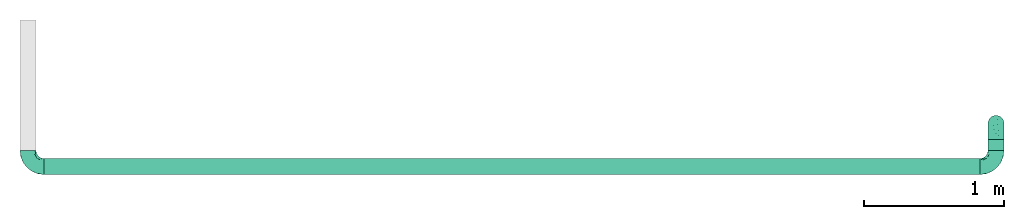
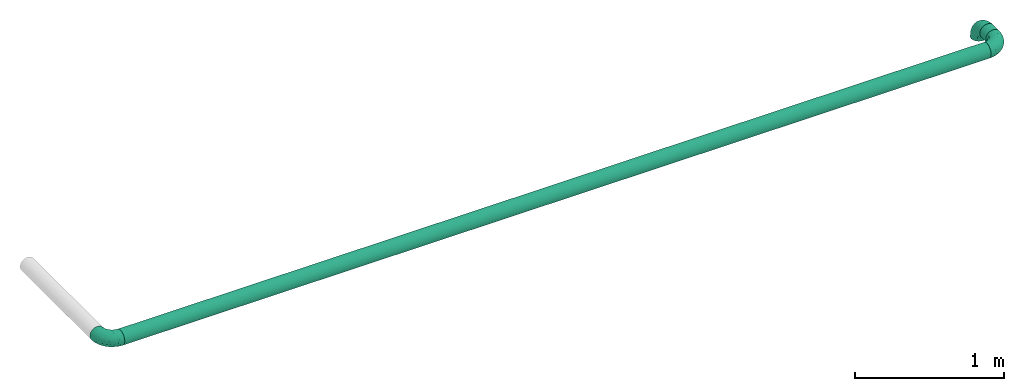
# One storey, part 1 of 2: 3 flow fittings, 2 flow segments.
"""IFC2X3 building model written with IfcOpenShell, lengths in millimetres."""

from ifc_helpers import new_model, entity, si_unit, converted_unit, derived_unit, direction, frame, origin_with_axes, origin_2d_with_axis, place, context, subcontext, project, spatial, hollow_circle, extrude, open_shell, surface_model, source, transform, mapped, type_object, element, save


model = new_model("IFC2X3")

# Units and contexts
model_context = context("Model", 3, precision=0.01, world=frame((0.0, 4.29681676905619e-09, 0.0)), true_north=direction((4.01073788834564e-13, 1.0)))
plan_context = context("Plan", 3, precision=0.01, world=frame((0.0, 4.29681676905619e-09, 0.0)), true_north=direction((4.01073788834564e-13, 1.0)))
body_context = subcontext(model_context, "Body", "Model", "MODEL_VIEW")
ifc_project = project(units=[converted_unit("PLANEANGLEUNIT", "DEGREE", entity("IfcPositiveLengthMeasure", 0.0174532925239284), si_unit("PLANEANGLEUNIT", "RADIAN"), dimensions=[0, 0, 0, 0, 0, 0, 0]), si_unit("AREAUNIT", "SQUARE_METRE"), si_unit("LENGTHUNIT", "METRE", prefix="MILLI"), si_unit("MASSUNIT", "GRAM", prefix="KILO"), si_unit("POWERUNIT", "WATT"), si_unit("PRESSUREUNIT", "PASCAL"), si_unit("FORCEUNIT", "NEWTON", prefix="KILO"), si_unit("ELECTRICVOLTAGEUNIT", "VOLT"), si_unit("ELECTRICCURRENTUNIT", "AMPERE"), si_unit("THERMODYNAMICTEMPERATUREUNIT", "DEGREE_CELSIUS"), si_unit("TIMEUNIT", "SECOND"), si_unit("VOLUMEUNIT", "CUBIC_METRE"), derived_unit("LINEARVELOCITYUNIT", [(si_unit("LENGTHUNIT", "METRE"), 1), (si_unit("TIMEUNIT", "SECOND"), -1)]), derived_unit("VOLUMETRICFLOWRATEUNIT", [(si_unit("VOLUMEUNIT", "CUBIC_METRE"), 1), (si_unit("TIMEUNIT", "SECOND"), -1)]), derived_unit("THERMALTRANSMITTANCEUNIT", [(si_unit("POWERUNIT", "WATT"), 1), (si_unit("THERMODYNAMICTEMPERATUREUNIT", "KELVIN"), -1), (si_unit("AREAUNIT", "SQUARE_METRE"), -1)]), derived_unit("SOUNDPRESSUREUNIT", [(si_unit("PRESSUREUNIT", "PASCAL"), 1)])], contexts=[model_context, plan_context])

# Site, building, storey
site_placement = place(None, frame((0.0, -4.29681676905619e-09, 0.0), z_axis=(0.0, 0.0, 1.0), x_axis=(1.0, 0.0, 0.0)))
site = spatial("IfcSite", under=ifc_project, at=site_placement, Name="ENGM", CompositionType="ELEMENT")
building_placement = place(site_placement, frame((0.0, 4.29681676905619e-09, 0.0), z_axis=(0.0, 0.0, 1.0), x_axis=(1.0, 0.0, 0.0)))
building = spatial("IfcBuilding", under=site, at=building_placement, Name="TI", CompositionType="ELEMENT")
storey_placement = place(building_placement, frame((0.0, 0.0, 200300.0), z_axis=(0.0, 0.0, 1.0), x_axis=(1.0, 0.0, 0.0)))
storey = spatial("IfcBuildingStorey", under=building, at=storey_placement, Name="Nivå C", CompositionType="ELEMENT", Elevation=200300.0)

# Flow fittings
pipe_fitting_type = type_object("IfcPipeFittingType", Name="magi_pipe_fe_elbow_short_001", PredefinedType="BEND")
shared_shape_1 = source(origin_with_axes(), body_context, "Body", "SurfaceModel", [
    surface_model("IfcShellBasedSurfaceModel", [(-114.4, 14.80445, -55.25096), (-114.4, 0.0, -57.2), (-114.4, 55.25096, -14.80445), (-114.4, 28.6, -49.53665), (-114.4, 40.44651, -40.44651), (-114.4, 49.53665, -28.6), (-114.4, -14.80445, -55.25096), (-114.4, -28.6, -49.53665), (-114.4, -40.44651, -40.44651), (-114.4, -49.53665, -28.6), (-114.4, -57.2, 0.0), (-114.4, -55.25096, 14.80445), (-114.4, -55.25096, -14.80445), (-114.4, 55.25096, 14.80445), (-114.4, 49.53665, 28.6), (-114.4, 14.80445, 55.25096), (-114.4, 28.6, 49.53665), (-114.4, 40.44651, 40.44651), (-114.4, -49.53665, 28.6), (-114.4, -40.44651, 40.44651), (-114.4, -28.6, 49.53665), (-114.4, -14.80445, 55.25096), (-114.4, 0.0, 57.2), (-114.4, 57.2, 0.0), (-55.25096, 114.4, -14.80445), (0.0, 114.4, -57.2), (-14.80445, 114.4, -55.25096), (-40.44651, 114.4, -40.44651), (-28.6, 114.4, -49.53665), (-49.53665, 114.4, -28.6), (14.80445, 114.4, -55.25096), (40.44651, 114.4, -40.44651), (28.6, 114.4, -49.53665), (49.53665, 114.4, -28.6), (55.25096, 114.4, -14.80445), (55.25096, 114.4, 14.80445), (57.2, 114.4, 0.0), (-57.2, 114.4, 0.0), (-14.80445, 114.4, 55.25096), (-55.25096, 114.4, 14.80445), (-49.53665, 114.4, 28.6), (-40.44651, 114.4, 40.44651), (-28.6, 114.4, 49.53665), (0.0, 114.4, 57.2), (40.44651, 114.4, 40.44651), (49.53665, 114.4, 28.6), (28.6, 114.4, 49.53665), (14.80445, 114.4, 55.25096), (-84.09593, -44.4609, 32.12695), (-78.31406, -50.35834, 18.09064), (-69.98665, -51.35287, 0.0), (-86.12558, -53.4776, 0.0), (26.94956, 24.61896, 21.38398), (23.80365, 28.9282, 30.95802), (13.45254, 9.10514, 25.44273), (25.9081, 46.58786, 39.43223), (13.7887, 44.17442, 47.56969), (11.34962, 21.0489, 38.60008), (-84.01314, -21.62253, 51.45941), (-44.17442, -13.7887, 47.56969), (-56.94795, -0.51331, 55.44129), (32.95049, 74.83723, 42.6022), (-74.83723, -32.95049, 42.6022), (-42.18394, -39.22352, 14.42655), (-49.29333, -42.78141, 0.0), (-28.6, -34.20996, 0.0), (-58.45256, 98.94035, 9.79038), (-66.4917, 80.68838, 12.49108), (-53.86806, 99.27813, 23.81237), (-98.96354, 34.63934, 46.60793), (-89.417, 47.68321, 37.53853), (-78.75499, 65.06315, 20.1487), (-69.82753, 67.46423, 28.36371), (-19.87966, 56.25042, 57.09737), (-42.36887, 42.36887, 55.81016), (-34.05979, 24.99593, 56.90536), (-87.38329, -7.57744, 56.22174), (-21.35173, 98.66622, 53.57802), (-7.8395, 85.56313, 57.05951), (-80.09857, 8.76799, 57.10251), (-83.13978, 56.87572, 29.62494), (-95.78145, 56.41971, 20.22865), (-4.03731, -9.15242, 25.37061), (-0.31511, 1.93743, 34.27014), (-19.64541, -13.64401, 35.44878), (-99.46039, 58.3547, 9.54675), (-81.27929, 66.79656, 9.48548), (-15.40877, -22.34715, 17.62592), (-22.36541, -22.21366, 27.19261), (-73.95349, 73.95349, 0.0), (-92.51051, 61.55409, 0.0), (-88.17421, 22.43358, 54.03359), (-14.9308, 38.31107, 56.16455), (-28.42151, 10.49345, 53.41327), (-5.8435, 30.90358, 52.5661), (-10.21756, 10.21755, 46.76585), (42.78141, 49.29333, 0.0), (39.22352, 42.18394, 14.42655), (34.20996, 28.6, 0.0), (44.4609, 84.09592, 32.12695), (36.19253, 49.91251, 28.8024), (50.35834, 78.31406, 18.09064), (-49.91251, -36.19253, 28.8024), (7.57744, 87.38329, 56.22174), (-60.81025, 38.81169, 52.90665), (-62.85564, 24.50144, 56.17637), (-56.12825, 14.01645, 57.17559), (53.4776, 86.12558, 0.0), (-46.75202, 73.27275, 45.06221), (-46.9952, 92.15035, 37.23874), (-60.2947, 63.88032, 40.51735), (-24.73794, 77.5074, 54.475), (-61.55409, 92.51051, 0.0), (-36.14627, 88.5894, 47.41169), (-43.26537, 61.83435, 50.97453), (21.62253, 84.01314, 51.45941), (-46.00205, -25.9418, 39.12939), (51.35287, 69.98665, 0.0), (-61.09042, 51.32771, 47.53469), (-78.767, 38.82835, 48.1683), (-33.31996, 59.37645, 54.79482), (0.51331, 56.94795, 55.44129), (5.79077, -5.18269, 15.19079), (-10.83024, -20.57474, 0.0), (6.93952, -6.93952, 0.0), (23.49511, 14.39974, 11.94799), (-59.03888, 80.99895, 28.23898), (20.57474, 10.83024, 0.0), (-83.04443, 37.50478, -47.83872), (-46.7296, -14.43559, -47.98954), (-49.66925, -0.71351, -54.4039), (-22.98222, -0.95718, -46.86946), (-90.55199, 7.23257, -57.01383), (-54.75453, -42.94222, -19.23712), (-83.44606, -51.20699, -18.64769), (-71.87032, -42.41832, -30.98153), (-88.01588, 22.45879, -54.04029), (-98.18309, 58.60159, -10.14716), (-35.90195, 89.79916, -47.31841), (-23.34952, 83.22029, -54.2411), (-80.26787, 66.2254, -14.3937), (19.74031, 72.43815, -50.87234), (22.54998, 96.60498, -52.05852), (34.17345, 82.75348, -43.18686), (-90.43853, 47.41296, -37.42627), (-68.98462, 52.41771, -43.14017), (11.06584, -0.7936, -12.00107), (27.03813, 18.93136, -10.41988), (-96.3016, -45.5344, -33.23337), (-52.97553, 66.48107, -44.04492), (-52.86453, 52.86452, -50.22362), (-28.87984, -29.47599, -21.57809), (-3.55846, -9.07581, -24.83342), (-7.95171, -18.66805, -11.6242), (-82.75348, -34.17345, -43.18686), (-17.0405, -11.44162, -35.68108), (4.58756, 9.16491, -36.00386), (2.40801, 26.86922, -47.70218), (23.33331, 42.70851, -40.01405), (7.21222, 84.27391, -56.15415), (51.20699, 83.44606, -18.64769), (-96.60498, -22.54998, -52.05852), (-42.70851, -23.33331, -40.01405), (-32.66648, -25.63204, -31.50784), (-62.42537, -26.11783, -44.91241), (-72.43815, -19.74031, -50.87234), (-84.27391, -7.21222, -56.15415), (-40.73478, 69.943, -49.6748), (30.94592, 38.60137, -28.62302), (42.41832, 71.87032, -30.98153), (40.14472, 45.8091, -16.78391), (-61.46613, 86.51054, -17.15009), (-69.51015, 68.0086, -28.05795), (0.71351, 49.66925, -54.4039), (11.82215, 48.83229, -49.96982), (-20.19298, 20.19298, -54.01217), (-49.4829, 83.72871, -38.16953), (-53.76637, 92.94659, -27.63224), (-7.23257, 90.55199, -57.01383), (45.5344, 96.3016, -33.23337), (-13.52193, 63.0147, -57.18765), (-30.92964, 33.3773, -57.16753), (-33.84558, 54.22558, -55.4975), (19.59603, 14.03839, -21.47962), (-56.47488, 33.10259, -55.31134), (-92.36856, 55.57393, -24.7177), (-35.50893, -36.67608, -11.48997), (-63.01471, 13.52193, -57.18765), (-63.79002, 64.78214, -37.11384)], [open_shell([[[0, 1, 2]], [[3, 0, 4]], [[2, 5, 4]], [[0, 2, 4]], [[6, 2, 1]], [[7, 8, 6]], [[9, 6, 8]], [[10, 11, 12]], [[6, 9, 11]], [[11, 9, 12]], [[2, 6, 13]], [[13, 6, 11]], [[14, 13, 15]], [[15, 16, 17]], [[14, 15, 17]], [[15, 13, 11]], [[18, 19, 11]], [[20, 11, 19]], [[21, 22, 20]], [[15, 11, 20]], [[20, 22, 15]], [[23, 2, 13]], [[24, 25, 26]], [[27, 26, 28]], [[27, 29, 24]], [[27, 24, 26]], [[25, 24, 30]], [[30, 31, 32]], [[31, 30, 33]], [[34, 35, 36]], [[33, 30, 24]], [[34, 33, 35]], [[33, 24, 37]], [[38, 37, 39]], [[38, 39, 40]], [[41, 42, 38]], [[41, 38, 40]], [[37, 38, 43]], [[35, 44, 45]], [[44, 35, 46]], [[46, 43, 47]], [[46, 35, 37]], [[37, 43, 46]], [[37, 35, 33]], [[48, 18, 49]], [[50, 49, 51]], [[52, 53, 54]], [[49, 18, 11]], [[11, 51, 49]], [[55, 56, 57]], [[19, 18, 48]], [[58, 59, 60]], [[61, 44, 46]], [[62, 20, 19]], [[62, 58, 20]], [[63, 64, 65]], [[66, 67, 68]], [[17, 69, 70]], [[67, 71, 72]], [[14, 17, 70]], [[73, 74, 75]], [[16, 69, 17]], [[21, 76, 22]], [[38, 77, 78]], [[22, 79, 15]], [[80, 81, 14]], [[82, 83, 84]], [[23, 13, 85]], [[71, 86, 85]], [[87, 82, 88]], [[89, 90, 86]], [[91, 15, 79]], [[15, 91, 16]], [[92, 93, 94]], [[95, 59, 84]], [[71, 85, 81]], [[96, 97, 98]], [[45, 44, 99]], [[100, 101, 99]], [[87, 88, 63]], [[48, 102, 62]], [[47, 43, 103]], [[104, 91, 105]], [[101, 35, 45]], [[39, 68, 40]], [[99, 101, 45]], [[105, 106, 75]], [[101, 107, 35]], [[49, 50, 64]], [[108, 109, 110]], [[111, 73, 78]], [[86, 67, 89]], [[22, 76, 79]], [[112, 66, 37]], [[42, 41, 113]], [[89, 67, 112]], [[80, 72, 71]], [[113, 111, 77]], [[114, 111, 113]], [[40, 68, 109]], [[115, 46, 47]], [[20, 58, 21]], [[61, 115, 56]], [[42, 77, 38]], [[43, 38, 78]], [[116, 59, 62]], [[66, 112, 67]], [[61, 46, 115]], [[101, 96, 117]], [[108, 118, 114]], [[118, 70, 119]], [[81, 80, 71]], [[109, 41, 40]], [[111, 114, 120]], [[111, 120, 73]], [[103, 78, 121]], [[59, 58, 62]], [[76, 58, 60]], [[116, 62, 102]], [[59, 95, 93]], [[103, 115, 47]], [[121, 94, 56]], [[121, 56, 115]], [[56, 95, 57]], [[105, 91, 79]], [[69, 91, 119]], [[102, 48, 49]], [[62, 19, 48]], [[44, 61, 99]], [[100, 99, 61]], [[122, 123, 124]], [[87, 122, 82]], [[87, 63, 65]], [[98, 97, 125]], [[122, 124, 125]], [[56, 55, 61]], [[85, 86, 90]], [[67, 86, 71]], [[23, 85, 90]], [[85, 13, 81]], [[13, 14, 81]], [[80, 14, 70]], [[70, 110, 80]], [[72, 110, 126]], [[113, 108, 114]], [[104, 118, 119]], [[105, 75, 74]], [[121, 78, 73]], [[93, 75, 60]], [[73, 75, 92]], [[78, 103, 43]], [[115, 103, 121]], [[58, 76, 21]], [[79, 76, 60]], [[110, 109, 126]], [[113, 41, 109]], [[105, 79, 106]], [[104, 105, 74]], [[114, 104, 74]], [[91, 104, 119]], [[114, 118, 104]], [[70, 118, 110]], [[79, 60, 106]], [[60, 75, 106]], [[110, 72, 80]], [[67, 72, 126]], [[83, 95, 84]], [[53, 57, 54]], [[53, 55, 57]], [[100, 61, 55]], [[59, 93, 60]], [[94, 93, 95]], [[56, 94, 95]], [[92, 94, 121]], [[73, 92, 121]], [[93, 92, 75]], [[68, 67, 126]], [[37, 66, 39]], [[11, 10, 51]], [[107, 101, 117]], [[107, 36, 35]], [[64, 63, 49]], [[49, 63, 102]], [[97, 101, 100]], [[101, 97, 96]], [[100, 53, 52]], [[122, 125, 54]], [[125, 124, 127]], [[82, 122, 54]], [[87, 123, 122]], [[83, 54, 57]], [[88, 82, 84]], [[116, 88, 84]], [[63, 88, 102]], [[54, 83, 82]], [[95, 83, 57]], [[91, 69, 16]], [[70, 69, 119]], [[113, 77, 42]], [[78, 77, 111]], [[66, 68, 39]], [[109, 68, 126]], [[88, 116, 102]], [[84, 59, 116]], [[87, 65, 123]], [[114, 74, 120]], [[73, 120, 74]], [[109, 108, 113]], [[118, 108, 110]], [[54, 125, 52]], [[55, 53, 100]], [[125, 97, 52]], [[100, 52, 97]], [[127, 98, 125]], [[4, 128, 3]], [[129, 130, 131]], [[1, 0, 132]], [[133, 134, 135]], [[3, 136, 0]], [[136, 3, 128]], [[90, 137, 23]], [[138, 28, 139]], [[90, 140, 137]], [[141, 142, 143]], [[144, 145, 128]], [[146, 147, 127]], [[26, 139, 28]], [[128, 4, 144]], [[134, 9, 148]], [[145, 149, 150]], [[134, 51, 12]], [[151, 152, 153]], [[154, 8, 7]], [[152, 155, 156]], [[156, 157, 158]], [[30, 159, 25]], [[160, 33, 34]], [[8, 148, 9]], [[7, 161, 154]], [[162, 163, 135]], [[135, 154, 164]], [[161, 7, 6]], [[165, 166, 130]], [[149, 167, 150]], [[89, 140, 90]], [[168, 169, 170]], [[171, 172, 140]], [[157, 173, 174]], [[24, 171, 37]], [[157, 175, 173]], [[166, 6, 1]], [[176, 177, 29]], [[172, 171, 177]], [[32, 31, 143]], [[25, 178, 26]], [[26, 178, 139]], [[179, 31, 33]], [[27, 28, 138]], [[29, 27, 176]], [[159, 30, 142]], [[161, 166, 165]], [[180, 181, 182]], [[171, 89, 112]], [[169, 160, 170]], [[152, 163, 155]], [[142, 30, 32]], [[143, 158, 141]], [[156, 168, 183]], [[160, 107, 117]], [[182, 139, 180]], [[184, 136, 128]], [[160, 169, 179]], [[9, 134, 12]], [[180, 159, 173]], [[144, 185, 172]], [[171, 112, 37]], [[149, 138, 167]], [[185, 2, 137]], [[153, 65, 186]], [[4, 5, 144]], [[179, 143, 31]], [[158, 143, 169]], [[173, 159, 141]], [[178, 159, 180]], [[174, 158, 157]], [[173, 175, 181]], [[160, 34, 107]], [[170, 117, 96]], [[147, 170, 98]], [[168, 170, 183]], [[165, 129, 164]], [[148, 154, 135]], [[132, 166, 1]], [[187, 181, 130]], [[187, 130, 166]], [[130, 175, 131]], [[135, 163, 133]], [[34, 36, 107]], [[171, 140, 89]], [[177, 24, 29]], [[185, 5, 2]], [[128, 145, 150]], [[184, 128, 150]], [[132, 136, 187]], [[139, 182, 167]], [[176, 27, 138]], [[158, 168, 156]], [[131, 175, 157]], [[152, 156, 183]], [[156, 155, 131]], [[156, 131, 157]], [[131, 162, 129]], [[172, 185, 140]], [[144, 5, 185]], [[136, 132, 0]], [[166, 132, 187]], [[159, 178, 25]], [[139, 178, 180]], [[180, 173, 181]], [[184, 150, 182]], [[130, 181, 175]], [[184, 181, 187]], [[181, 184, 182]], [[136, 184, 187]], [[172, 188, 144]], [[188, 176, 149]], [[151, 186, 133]], [[64, 133, 186]], [[153, 146, 124]], [[155, 163, 162]], [[146, 152, 183]], [[153, 123, 65]], [[188, 149, 145]], [[138, 149, 176]], [[139, 167, 138]], [[182, 150, 167]], [[144, 188, 145]], [[176, 188, 172]], [[163, 152, 151]], [[131, 155, 162]], [[152, 146, 153]], [[147, 146, 183]], [[170, 147, 183]], [[127, 124, 146]], [[147, 98, 127]], [[153, 186, 151]], [[64, 50, 133]], [[186, 65, 64]], [[50, 134, 133]], [[163, 151, 133]], [[51, 134, 50]], [[51, 10, 12]], [[185, 137, 140]], [[23, 137, 2]], [[143, 142, 32]], [[159, 142, 141]], [[160, 179, 33]], [[143, 179, 169]], [[166, 161, 6]], [[154, 161, 165]], [[154, 148, 8]], [[134, 148, 135]], [[117, 170, 160]], [[96, 98, 170]], [[169, 168, 158]], [[172, 177, 176]], [[24, 177, 171]], [[173, 141, 174]], [[158, 174, 141]], [[164, 129, 162]], [[130, 129, 165]], [[135, 164, 162]], [[165, 164, 154]], [[153, 124, 123]]])]),
])
for number, where, z_axis, x_axis, name in (
    (1, (609356.67955, 698427.01935, 9980.0), (0.0, 0.0, 1.0), (1.0, 0.0, 0.0), "magi_pipe_fe_elbow_short_001"),
    (2, (602433.58995, 698427.01935, 9979.99974), (0.0, 0.0, 1.0), (0.0, -1.0, 0.0), "magi_pipe_fe_elbow_short_001"),
    (3, (609356.67955, 698735.51154, 9980.0), (-1.0, 0.0, 0.0), (0.0, 1.0, 0.0), "magi_pipe_fe_elbow_short_001"),
):
    element("IfcFlowFitting", number, at=place(storey_placement, frame(where, z_axis=z_axis, x_axis=x_axis)), inside=storey, type_object=pipe_fitting_type, Name=name, context=body_context, shape_type="MappedRepresentation", body=[
        mapped(shared_shape_1, transform((0.0, 0.0, 0.0), scale=1.0)),
    ])

# Flow segments
pipe_segment_type = type_object("IfcPipeSegmentType", Name="Stålrør normaltykke", PredefinedType="RIGIDSEGMENT")
shared_shape_2 = source(origin_with_axes(), body_context, "Body", "SweptSolid", [
    extrude(hollow_circle(Radius=57.1, WallThickness=2.0, at=origin_2d_with_axis()), frame((0.0, 0.0, 0.0), z_axis=(1.0, 0.0, 0.0), x_axis=(0.0, 1.0, 0.0)), (0.0, 0.0, 1.0), 79.7),
])
flow_segment_1_placement = place(storey_placement, frame((609356.67955, 698621.11154, 9980.0), z_axis=(0.0, 0.0, 1.0), x_axis=(0.0, -1.0, 0.0)))
element("IfcFlowSegment", 4, at=flow_segment_1_placement, inside=storey, type_object=pipe_segment_type, Name="Stålrør normaltykke", context=body_context, shape_type="MappedRepresentation", body=[
    mapped(shared_shape_2, transform((0.0, 0.0, 0.0), scale=1.0)),
])
shared_shape_3 = source(origin_with_axes(), body_context, "Body", "SweptSolid", [
    extrude(hollow_circle(Radius=57.1, WallThickness=2.0, at=origin_2d_with_axis()), frame((0.0, 0.0, 0.0), z_axis=(1.0, 0.0, 0.0), x_axis=(0.0, 1.0, 0.0)), (0.0, 0.0, 1.0), 6694.3),
])
flow_segment_2_placement = place(storey_placement, frame((609242.27955, 698427.01935, 9980.0), z_axis=(0.0, 0.0, 1.0), x_axis=(-1.0, 0.0, 0.0)))
element("IfcFlowSegment", 5, at=flow_segment_2_placement, inside=storey, type_object=pipe_segment_type, Name="Stålrør normaltykke", context=body_context, shape_type="MappedRepresentation", body=[
    mapped(shared_shape_3, transform((0.0, 0.0, 0.0), scale=1.0)),
])

save(model, "model.ifc")
